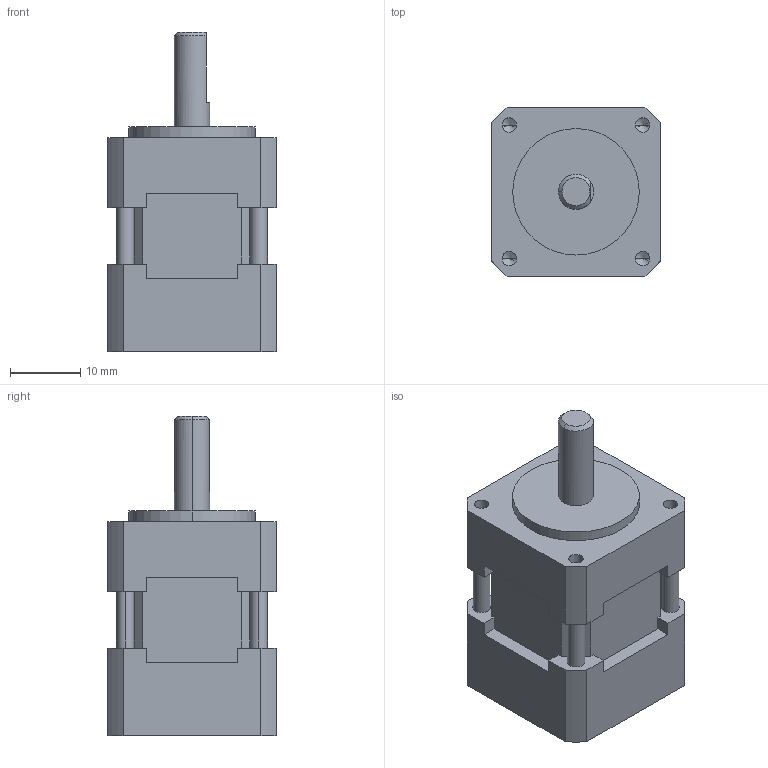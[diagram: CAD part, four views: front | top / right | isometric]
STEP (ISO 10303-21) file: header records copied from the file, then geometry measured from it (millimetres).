
FILE_DESCRIPTION (( 'STEP AP214' ), '1' );
FILE_NAME ('TS3664N1E2.STEP', '2016-09-09T06:40:48', ( 'hoho' ), ( '' ), 'SwSTEP 2.0', 'SolidWorks 2013', '' );
FILE_SCHEMA (( 'AUTOMOTIVE_DESIGN' ));
Length unit declared in the file: millimetre
Products named in the file (1): TS3664N1E2
Bounding box: 24 x 24 x 45.5 mm (x, y, z)
Volume: 16137.3 mm3; surface area: 4800.9 mm2
Topology: 1 solids, 1 shells, 92 faces, 254 edges, 162 vertices
Faces by surface type: plane 54, cylinder 28, cone 10
Entity records: 3096 total; most frequent: CARTESIAN_POINT 513, ORIENTED_EDGE 492, DIRECTION 490, EDGE_CURVE 246, LINE 184, VECTOR 184, VERTEX_POINT 162, AXIS2_PLACEMENT_3D 153
